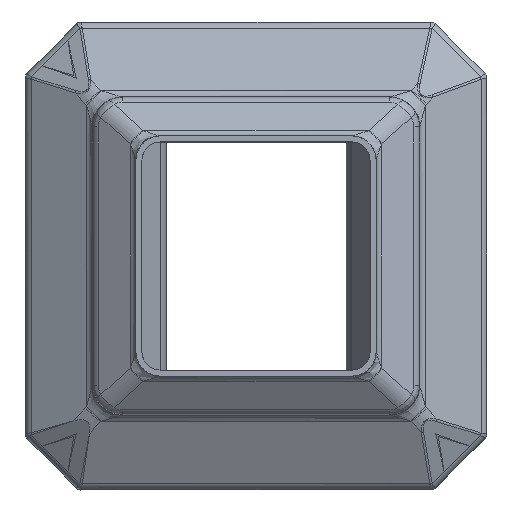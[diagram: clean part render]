
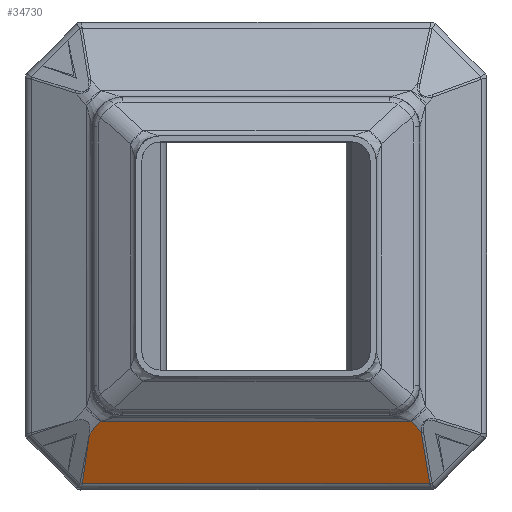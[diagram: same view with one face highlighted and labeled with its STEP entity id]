
A CAD part, left-side view. The second image highlights one B-rep face of the part: STEP entity #34730.
In plain terms, the highlighted planar face has unit normal (-0.889, 0, -0.457).
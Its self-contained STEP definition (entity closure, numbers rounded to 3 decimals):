
#9777=CARTESIAN_POINT('',(-92.457,57.901,
-75.829));
#9778=CARTESIAN_POINT('',(-93.419,57.635,
-73.959));
#9779=CARTESIAN_POINT('',(-95.329,57.114,
-70.244));
#9780=CARTESIAN_POINT('',(-98.156,56.367,
-64.748));
#9781=CARTESIAN_POINT('',(-100.013,55.859,
-61.137));
#9782=CARTESIAN_POINT('',(-100.931,55.561,
-59.35));
#9787=CARTESIAN_POINT('',(-92.457,57.901,
-75.829));
#9857=CARTESIAN_POINT('',(-92.457,-57.919,
-75.829));
#9886=DIRECTION('',(-0.452,0.147,0.88));
#9887=VECTOR('',#9886,19.356);
#9888=CARTESIAN_POINT('',(-92.457,-57.919,
-75.829));
#9889=LINE('',#9888,#9887);
#9893=DIRECTION('',(0.,1.,0.));
#9894=VECTOR('',#9893,115.82);
#9895=CARTESIAN_POINT('',(-92.457,-57.919,
-75.829));
#9896=LINE('',#9895,#9894);
#9900=DIRECTION('',(-0.358,-0.621,0.697));
#9901=VECTOR('',#9900,5.996);
#9902=CARTESIAN_POINT('',(-100.931,55.561,
-59.35));
#9903=LINE('',#9902,#9901);
#9907=DIRECTION('',(0.,-1.,0.));
#9908=VECTOR('',#9907,103.674);
#9909=CARTESIAN_POINT('',(-103.081,51.837,
-55.171));
#9910=LINE('',#9909,#9908);
#9914=DIRECTION('',(0.358,-0.621,-0.697));
#9915=VECTOR('',#9914,5.211);
#9916=CARTESIAN_POINT('',(-103.081,-51.837,
-55.171));
#9917=LINE('',#9916,#9915);
#12021=CARTESIAN_POINT('',(-103.081,-51.837,
-55.171));
#12026=CARTESIAN_POINT('',(-103.081,51.837,
-55.171));
#32605=VERTEX_POINT('',#9787);
#33047=VERTEX_POINT('',#9857);
#33049=CARTESIAN_POINT('',(-101.213,-55.073,
-58.803));
#33050=VERTEX_POINT('',#33049);
#33335=VERTEX_POINT('',#12026);
#33339=VERTEX_POINT('',#12021);
#33722=CARTESIAN_POINT('',(-100.931,55.561,
-59.35));
#33723=VERTEX_POINT('',#33722);
#34714=CARTESIAN_POINT('',(-104.197,92.427,-53.));
#34715=DIRECTION('',(0.889,0.,0.457));
#34716=DIRECTION('',(0.457,0.,-0.889));
#34717=AXIS2_PLACEMENT_3D('',#34714,#34715,#34716);
#34718=PLANE('',#34717);
#34719=ORIENTED_EDGE('',*,*,#34704,.F.);
#34720=ORIENTED_EDGE('',*,*,#34603,.T.);
#34721=ORIENTED_EDGE('',*,*,#34507,.T.);
#34723=ORIENTED_EDGE('',*,*,#34722,.T.);
#34725=ORIENTED_EDGE('',*,*,#34724,.T.);
#34727=ORIENTED_EDGE('',*,*,#34726,.T.);
#34728=EDGE_LOOP('',(#34719,#34720,#34721,#34723,#34725,#34727));
#34729=FACE_OUTER_BOUND('',#34728,.F.);
#34730=ADVANCED_FACE('',(#34729),#34718,.F.);
#9783=B_SPLINE_CURVE_WITH_KNOTS('',3,(#9777,#9778,#9779,#9780,#9781,#9782),
.UNSPECIFIED.,.F.,.F.,(4,1,1,4),(0.,0.333,0.667,1.),
.UNSPECIFIED.);
#34507=EDGE_CURVE('',#32605,#33723,#9783,.T.);
#34603=EDGE_CURVE('',#33047,#32605,#9896,.T.);
#34704=EDGE_CURVE('',#33047,#33050,#9889,.T.);
#34722=EDGE_CURVE('',#33723,#33335,#9903,.T.);
#34724=EDGE_CURVE('',#33335,#33339,#9910,.T.);
#34726=EDGE_CURVE('',#33339,#33050,#9917,.T.);
